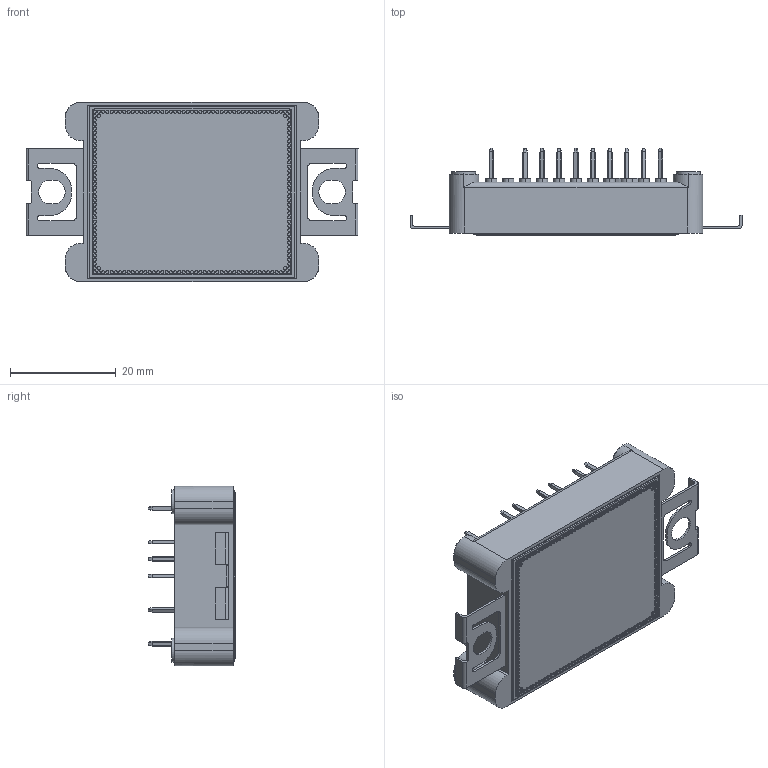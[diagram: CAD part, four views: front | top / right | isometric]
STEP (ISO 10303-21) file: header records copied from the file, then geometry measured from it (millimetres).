
FILE_DESCRIPTION((''),'2;1');
FILE_NAME('AMG015P12P1H3RA-ALL_ASM','2024-01-22T15:24:22',('yanbing.guo'),(''),'CREO PARAMETRIC BY PTC INC, 2022073','CREO PARAMETRIC BY PTC INC, 2022073','');
FILE_SCHEMA(('CONFIG_CONTROL_DESIGN','SHAPE_APPEARANCE_LAYERS_GROUPS'));
Length unit declared in the file: millimetre
Products named in the file (11): 000; 0004; DBC_LAYOUT_ASM; M1008P1AX002___ACP0001; 00; L00; R00; M1323P1AN001__ACP-000_ASM; HOUSING_ASM; AMG015P12P1H3RA-ALL_ASM
Assembly tree (32 placements, depth 4):
  AMG015P12P1H3RA-ALL_ASM
    DBC_LAYOUT_ASM
      000
      000
      0004
    HOUSING_ASM
      M1008P1AX002___ACP0001  x23
      M1323P1AN001__ACP-000_ASM
        00
        L00
        R00
Bounding box: 62.8 x 16.5 x 34 mm (x, y, z)
Volume: 7562.9 mm3; surface area: 16941.4 mm2
Topology: 29 solids, 29 shells, 1880 faces, 4559 edges, 2900 vertices
Faces by surface type: cylinder 969, plane 587, cone 182, torus 142
Entity records: 58545 total; most frequent: DIRECTION 8475, CARTESIAN_POINT 7470, ORIENTED_EDGE 7182, EDGE_CURVE 3591, AXIS2_PLACEMENT_3D 3427, PRESENTATION_STYLE_ASSIGNMENT 3343, STYLED_ITEM 2515, CURVE_STYLE 2511
